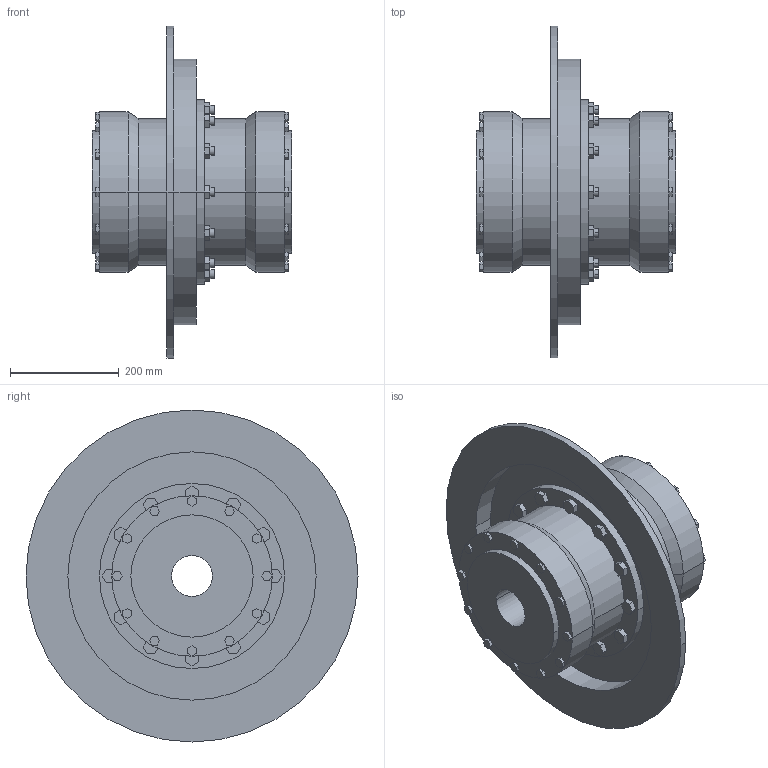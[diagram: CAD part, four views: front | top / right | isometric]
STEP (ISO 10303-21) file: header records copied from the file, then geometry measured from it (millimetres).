
FILE_DESCRIPTION((''),'2;1');
FILE_NAME('A19101600-0_ASM','2018-11-08T',('AB_Roschiwal'),('RENK AG'),'PRO/ENGINEER BY PARAMETRIC TECHNOLOGY CORPORATION, 2015440','PRO/ENGINEER BY PARAMETRIC TECHNOLOGY CORPORATION, 2015440','');
FILE_SCHEMA(('CONFIG_CONTROL_DESIGN'));
Length unit declared in the file: millimetre
Products named in the file (4): SBKD140_GEHAEUSE; SBKD140_NABE; SBKD140_BREMSSCHEIBE; A19101600-0_ASM
Assembly tree (4 placements, depth 2):
  A19101600-0_ASM
    SBKD140_GEHAEUSE
    SBKD140_NABE  x2
    SBKD140_BREMSSCHEIBE
Bounding box: 367 x 610 x 610 mm (x, y, z)
Volume: 23367368.4 mm3; surface area: 1937882.1 mm2
Topology: 4 solids, 4 shells, 470 faces, 1156 edges, 768 vertices
Faces by surface type: plane 370, cylinder 96, cone 4
Entity records: 13604 total; most frequent: CARTESIAN_POINT 2350, ORIENTED_EDGE 2264, DIRECTION 2240, EDGE_CURVE 1132, VECTOR 956, LINE 956, VERTEX_POINT 752, AXIS2_PLACEMENT_3D 642
